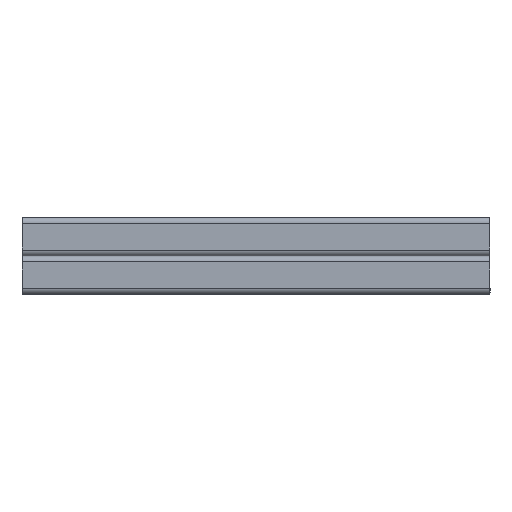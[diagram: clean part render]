
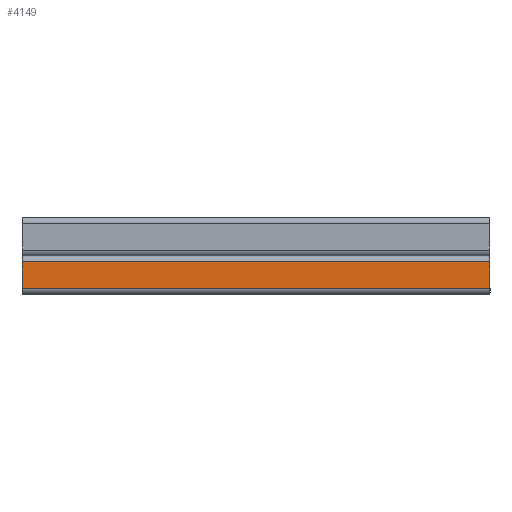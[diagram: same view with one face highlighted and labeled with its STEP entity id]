
A CAD part, top view. The second image highlights one B-rep face of the part: STEP entity #4149.
In plain terms, the highlighted planar face has unit normal (0, 0, 1).
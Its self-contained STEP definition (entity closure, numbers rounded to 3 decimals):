
#2 = EDGE_CURVE ( 'NONE', #1294, #2586, #4461, .T. ) ;
#57 = EDGE_CURVE ( 'NONE', #2586, #230, #3672, .T. ) ;
#230 = VERTEX_POINT ( 'NONE', #2545 ) ;
#440 = CARTESIAN_POINT ( 'NONE',  ( 0.05, 0., 29.396 ) ) ;
#595 = VECTOR ( 'NONE', #3167, 1000. ) ;
#731 = CARTESIAN_POINT ( 'NONE',  ( 249.95, 10.157, 29.396 ) ) ;
#1039 = EDGE_CURVE ( 'NONE', #1909, #230, #2864, .T. ) ;
#1135 = CARTESIAN_POINT ( 'NONE',  ( 0.05, 10.157, 29.396 ) ) ;
#1278 = ORIENTED_EDGE ( 'NONE', *, *, #3494, .T. ) ;
#1294 = VERTEX_POINT ( 'NONE', #731 ) ;
#1297 = LINE ( 'NONE', #2281, #4195 ) ;
#1318 = AXIS2_PLACEMENT_3D ( 'NONE', #3859, #3835, #3765 ) ;
#1645 = CARTESIAN_POINT ( 'NONE',  ( 249.95, -4.062, 29.396 ) ) ;
#1685 = ORIENTED_EDGE ( 'NONE', *, *, #1039, .F. ) ;
#1844 = CARTESIAN_POINT ( 'NONE',  ( 250., 10.157, 29.396 ) ) ;
#1866 = DIRECTION ( 'NONE',  ( 0., -1., 0. ) ) ;
#1909 = VERTEX_POINT ( 'NONE', #1645 ) ;
#2281 = CARTESIAN_POINT ( 'NONE',  ( 249.95, 10.157, 29.396 ) ) ;
#2545 = CARTESIAN_POINT ( 'NONE',  ( 0.05, -4.062, 29.396 ) ) ;
#2586 = VERTEX_POINT ( 'NONE', #1135 ) ;
#2731 = DIRECTION ( 'NONE',  ( 0., 1., 0. ) ) ;
#2864 = LINE ( 'NONE', #4548, #595 ) ;
#3029 = FACE_OUTER_BOUND ( 'NONE', #4108, .T. ) ;
#3084 = ORIENTED_EDGE ( 'NONE', *, *, #57, .T. ) ;
#3167 = DIRECTION ( 'NONE',  ( -1., 0., 0. ) ) ;
#3294 = VECTOR ( 'NONE', #1866, 1000. ) ;
#3301 = DIRECTION ( 'NONE',  ( -1., 0., 0. ) ) ;
#3494 = EDGE_CURVE ( 'NONE', #1909, #1294, #1297, .T. ) ;
#3672 = LINE ( 'NONE', #440, #3294 ) ;
#3765 = DIRECTION ( 'NONE',  ( 0., 1., 0. ) ) ;
#3835 = DIRECTION ( 'NONE',  ( 0., 0., -1. ) ) ;
#3859 = CARTESIAN_POINT ( 'NONE',  ( 250., 0., 29.396 ) ) ;
#4108 = EDGE_LOOP ( 'NONE', ( #1685, #1278, #4414, #3084 ) ) ;
#4149 = ADVANCED_FACE ( 'NONE', ( #3029 ), #4166, .F. ) ;
#4166 = PLANE ( 'NONE',  #1318 ) ;
#4195 = VECTOR ( 'NONE', #2731, 1000. ) ;
#4273 = VECTOR ( 'NONE', #3301, 1000. ) ;
#4414 = ORIENTED_EDGE ( 'NONE', *, *, #2, .T. ) ;
#4461 = LINE ( 'NONE', #1844, #4273 ) ;
#4548 = CARTESIAN_POINT ( 'NONE',  ( 250., -4.062, 29.396 ) ) ;
